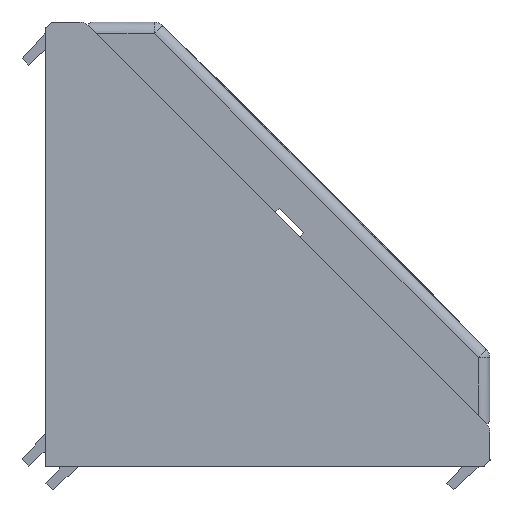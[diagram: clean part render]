
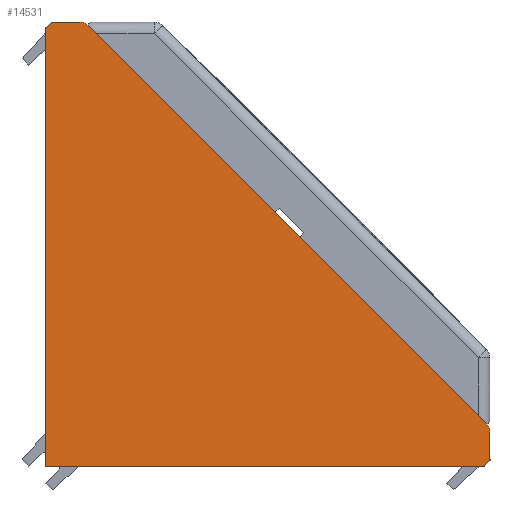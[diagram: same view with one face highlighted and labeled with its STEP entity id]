
A CAD part, left-side view. The second image highlights one B-rep face of the part: STEP entity #14531.
In plain terms, the highlighted planar face has unit normal (-1, 0, 0) as drawn and (0, 0, -1) by its records, which use the part's own axes.
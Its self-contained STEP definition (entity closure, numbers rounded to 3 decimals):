
#1166=FACE_OUTER_BOUND('',#2086,.T.);
#2086=EDGE_LOOP('',(#9996,#9997,#9998,#9999,#10000,#10001,#10002,#10003,
#10004,#10005,#10006));
#3021=LINE('',#21555,#4217);
#3064=LINE('',#22282,#4260);
#3127=LINE('',#22864,#4323);
#3129=LINE('',#22868,#4325);
#3167=LINE('',#23179,#4363);
#3168=LINE('',#23183,#4364);
#3169=LINE('',#23185,#4365);
#4217=VECTOR('',#16990,10.);
#4260=VECTOR('',#17081,10.);
#4323=VECTOR('',#17196,10.);
#4325=VECTOR('',#17200,10.);
#4363=VECTOR('',#17310,10.);
#4364=VECTOR('',#17313,10.);
#4365=VECTOR('',#17314,10.);
#5401=CIRCLE('',#15528,0.5);
#5406=CIRCLE('',#15562,2.);
#5407=CIRCLE('',#15563,2.);
#5408=CIRCLE('',#15564,0.5);
#6013=VERTEX_POINT('',#21552);
#6014=VERTEX_POINT('',#21554);
#6104=VERTEX_POINT('',#22281);
#6202=VERTEX_POINT('',#22860);
#6203=VERTEX_POINT('',#22862);
#6204=VERTEX_POINT('',#22866);
#6244=VERTEX_POINT('',#23176);
#6245=VERTEX_POINT('',#23178);
#6246=VERTEX_POINT('',#23180);
#6247=VERTEX_POINT('',#23182);
#6248=VERTEX_POINT('',#23184);
#7396=EDGE_CURVE('',#6014,#6013,#3021,.T.);
#7493=EDGE_CURVE('',#6014,#6104,#3064,.T.);
#7606=EDGE_CURVE('',#6203,#6202,#3127,.T.);
#7608=EDGE_CURVE('',#6202,#6204,#3129,.T.);
#7609=EDGE_CURVE('',#6204,#6013,#5401,.T.);
#7666=EDGE_CURVE('',#6244,#6203,#5406,.T.);
#7667=EDGE_CURVE('',#6245,#6244,#3167,.T.);
#7668=EDGE_CURVE('',#6246,#6245,#5407,.T.);
#7669=EDGE_CURVE('',#6247,#6246,#3168,.T.);
#7670=EDGE_CURVE('',#6248,#6247,#3169,.T.);
#7671=EDGE_CURVE('',#6104,#6248,#5408,.T.);
#9996=ORIENTED_EDGE('',*,*,#7396,.T.);
#9997=ORIENTED_EDGE('',*,*,#7609,.F.);
#9998=ORIENTED_EDGE('',*,*,#7608,.F.);
#9999=ORIENTED_EDGE('',*,*,#7606,.F.);
#10000=ORIENTED_EDGE('',*,*,#7666,.F.);
#10001=ORIENTED_EDGE('',*,*,#7667,.F.);
#10002=ORIENTED_EDGE('',*,*,#7668,.F.);
#10003=ORIENTED_EDGE('',*,*,#7669,.F.);
#10004=ORIENTED_EDGE('',*,*,#7670,.F.);
#10005=ORIENTED_EDGE('',*,*,#7671,.F.);
#10006=ORIENTED_EDGE('',*,*,#7493,.F.);
#14167=PLANE('',#15561);
#14531=ADVANCED_FACE('',(#1166),#14167,.F.);
#15528=AXIS2_PLACEMENT_3D('',#22870,#17203,#17204);
#15561=AXIS2_PLACEMENT_3D('',#23175,#17306,#17307);
#15562=AXIS2_PLACEMENT_3D('',#23177,#17308,#17309);
#15563=AXIS2_PLACEMENT_3D('',#23181,#17311,#17312);
#15564=AXIS2_PLACEMENT_3D('',#23186,#17315,#17316);
#16990=DIRECTION('',(-1.,0.,0.));
#17081=DIRECTION('',(0.,1.,0.));
#17196=DIRECTION('',(0.,-1.,0.));
#17200=DIRECTION('',(0.707,-0.707,0.));
#17203=DIRECTION('center_axis',(0.,0.,
1.));
#17204=DIRECTION('ref_axis',(-1.,0.,0.));
#17306=DIRECTION('center_axis',(0.,0.,
1.));
#17307=DIRECTION('ref_axis',(-0.707,-0.707,0.));
#17308=DIRECTION('center_axis',(0.,0.,
1.));
#17309=DIRECTION('ref_axis',(-1.,0.,0.));
#17310=DIRECTION('',(-0.707,-0.707,0.));
#17311=DIRECTION('center_axis',(0.,0.,
1.));
#17312=DIRECTION('ref_axis',(-1.,0.,0.));
#17313=DIRECTION('',(-1.,0.,0.));
#17314=DIRECTION('',(-0.707,0.707,0.));
#17315=DIRECTION('center_axis',(0.,0.,
1.));
#17316=DIRECTION('ref_axis',(-1.,0.,0.));
#21552=CARTESIAN_POINT('',(-74.746,0.,-37.));
#21554=CARTESIAN_POINT('',(0.,0.,-37.));
#21555=CARTESIAN_POINT('',(0.,0.,-37.));
#22281=CARTESIAN_POINT('',(0.,74.746,-37.));
#22282=CARTESIAN_POINT('',(0.,136.176,-37.));
#22860=CARTESIAN_POINT('',(-76.,1.047,-37.));
#22862=CARTESIAN_POINT('',(-76.,5.903,-37.));
#22864=CARTESIAN_POINT('',(-76.,138.42,-37.));
#22866=CARTESIAN_POINT('',(-75.1,0.146,-37.));
#22868=CARTESIAN_POINT('',(-77.421,2.468,-37.));
#22870=CARTESIAN_POINT('Origin',(-74.746,0.5,-37.));
#23175=CARTESIAN_POINT('Origin',(188.206,270.938,-37.));
#23176=CARTESIAN_POINT('',(-75.414,7.317,-37.));
#23177=CARTESIAN_POINT('Origin',(-74.,5.903,-37.));
#23178=CARTESIAN_POINT('',(-7.317,75.414,-37.));
#23179=CARTESIAN_POINT('',(90.444,173.176,-37.));
#23180=CARTESIAN_POINT('',(-5.903,76.,-37.));
#23181=CARTESIAN_POINT('Origin',(-5.903,74.,-37.));
#23182=CARTESIAN_POINT('',(-1.047,76.,-37.));
#23183=CARTESIAN_POINT('',(93.58,76.,-37.));
#23184=CARTESIAN_POINT('',(-0.146,75.1,-37.));
#23185=CARTESIAN_POINT('',(-2.468,77.421,-37.));
#23186=CARTESIAN_POINT('Origin',(-0.5,74.746,-37.));
